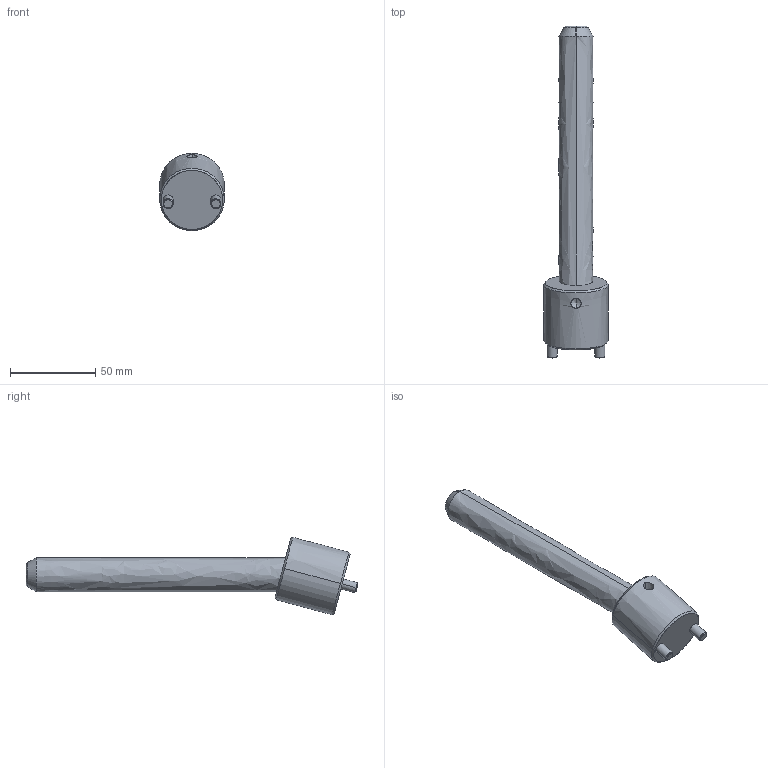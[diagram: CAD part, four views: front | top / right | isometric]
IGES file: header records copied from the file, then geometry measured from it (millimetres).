
Start section: START RECORD GO HERE.
Global section: file name: CI1520150.igs; native system: DASSAULT SYSTEMES CATIA V5 R20 - www.3ds.com; preprocessor: CATIA Version 5 Release 20 ; author: r.borello; organization: CFTORINO; date: 20190621.161617; units: millimetre
Bounding box: 38 x 195.15 x 45.51 mm (x, y, z)
Surface area: 20575.1 mm2 (no closed solid volume)
Topology: 0 solids, 0 shells, 39 faces, 162 edges, 160 vertices
Faces by surface type: revolution 32, plane 7
